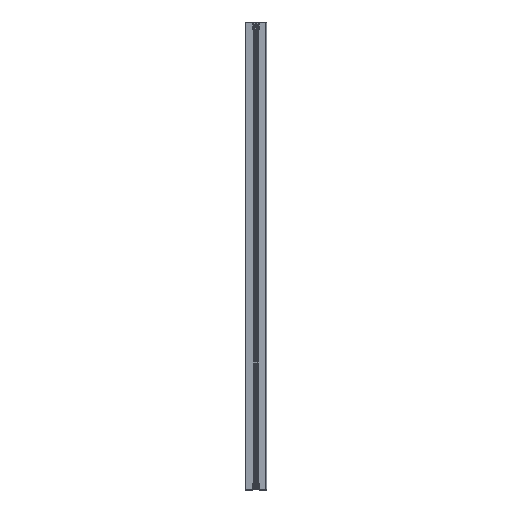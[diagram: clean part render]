
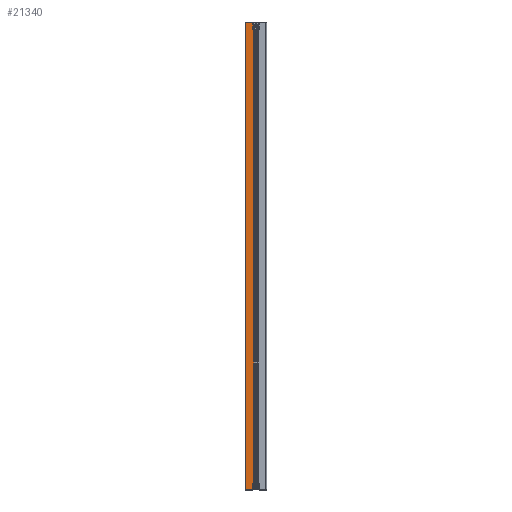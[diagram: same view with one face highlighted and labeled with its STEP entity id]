
A CAD part, left-side view. The second image highlights one B-rep face of the part: STEP entity #21340.
In plain terms, the highlighted planar face has unit normal (-1, 0, 0).
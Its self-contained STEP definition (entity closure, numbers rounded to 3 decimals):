
#690 = LINE ( 'NONE', #26309, #26823 ) ;
#1391 = DIRECTION ( 'NONE',  ( 1., 0., 0. ) ) ;
#1424 = EDGE_CURVE ( 'NONE', #10285, #3055, #13794, .T. ) ;
#2332 = ORIENTED_EDGE ( 'NONE', *, *, #30333, .T. ) ;
#2998 = DIRECTION ( 'NONE',  ( 0., 0., 1. ) ) ;
#3055 = VERTEX_POINT ( 'NONE', #15467 ) ;
#3110 = ORIENTED_EDGE ( 'NONE', *, *, #30169, .F. ) ;
#3921 = DIRECTION ( 'NONE',  ( 0., -1., 0. ) ) ;
#4016 = PLANE ( 'NONE',  #25367 ) ;
#4985 = DIRECTION ( 'NONE',  ( 0., -1., 0. ) ) ;
#5326 = DIRECTION ( 'NONE',  ( 0., 0., -1. ) ) ;
#5826 = EDGE_CURVE ( 'NONE', #8195, #10285, #690, .T. ) ;
#6534 = VERTEX_POINT ( 'NONE', #18604 ) ;
#7473 = ORIENTED_EDGE ( 'NONE', *, *, #11070, .T. ) ;
#7489 = CARTESIAN_POINT ( 'NONE',  ( -16., 13.85, -987.3 ) ) ;
#7751 = LINE ( 'NONE', #13003, #18768 ) ;
#7790 = CARTESIAN_POINT ( 'NONE',  ( -16., 13.85, -1017. ) ) ;
#8195 = VERTEX_POINT ( 'NONE', #8736 ) ;
#8505 = DIRECTION ( 'NONE',  ( 0., 1., 0. ) ) ;
#8518 = CARTESIAN_POINT ( 'NONE',  ( -16., 8.776, 1017. ) ) ;
#8736 = CARTESIAN_POINT ( 'NONE',  ( -16., 46.5, 1017. ) ) ;
#9309 = ORIENTED_EDGE ( 'NONE', *, *, #11045, .T. ) ;
#9635 = ORIENTED_EDGE ( 'NONE', *, *, #5826, .T. ) ;
#10116 = VECTOR ( 'NONE', #26553, 1000. ) ;
#10285 = VERTEX_POINT ( 'NONE', #18929 ) ;
#10708 = CARTESIAN_POINT ( 'NONE',  ( -16., 8.776, 987.3 ) ) ;
#11045 = EDGE_CURVE ( 'NONE', #29135, #28756, #12115, .T. ) ;
#11070 = EDGE_CURVE ( 'NONE', #3055, #29135, #25001, .T. ) ;
#12115 = LINE ( 'NONE', #7489, #21429 ) ;
#12221 = LINE ( 'NONE', #21769, #10116 ) ;
#13003 = CARTESIAN_POINT ( 'NONE',  ( -16., 13.85, 987.3 ) ) ;
#13440 = CARTESIAN_POINT ( 'NONE',  ( -16., 8.487, 1017. ) ) ;
#13569 = VECTOR ( 'NONE', #2998, 1000. ) ;
#13794 = LINE ( 'NONE', #18264, #29103 ) ;
#15306 = CARTESIAN_POINT ( 'NONE',  ( -16., 13.85, -987.3 ) ) ;
#15467 = CARTESIAN_POINT ( 'NONE',  ( -16., 13.85, -1016.9 ) ) ;
#17117 = EDGE_CURVE ( 'NONE', #8195, #18288, #21027, .T. ) ;
#17613 = DIRECTION ( 'NONE',  ( 0., -1., 0. ) ) ;
#17905 = ORIENTED_EDGE ( 'NONE', *, *, #17117, .F. ) ;
#17922 = DIRECTION ( 'NONE',  ( 0., 0., 1. ) ) ;
#18264 = CARTESIAN_POINT ( 'NONE',  ( -16., 8.487, -1016.9 ) ) ;
#18288 = VERTEX_POINT ( 'NONE', #25361 ) ;
#18604 = CARTESIAN_POINT ( 'NONE',  ( -16., 13.85, 987.3 ) ) ;
#18768 = VECTOR ( 'NONE', #17613, 1000. ) ;
#18929 = CARTESIAN_POINT ( 'NONE',  ( -16., 46.5, -1016.9 ) ) ;
#19266 = VECTOR ( 'NONE', #17922, 1000. ) ;
#20385 = LINE ( 'NONE', #8518, #19266 ) ;
#21015 = EDGE_LOOP ( 'NONE', ( #7473, #9309, #2332, #3110, #23493, #17905, #9635, #22980 ) ) ;
#21027 = LINE ( 'NONE', #28290, #30495 ) ;
#21242 = EDGE_CURVE ( 'NONE', #18288, #6534, #12221, .T. ) ;
#21340 = ADVANCED_FACE ( 'NONE', ( #26708 ), #4016, .F. ) ;
#21429 = VECTOR ( 'NONE', #30330, 1000. ) ;
#21769 = CARTESIAN_POINT ( 'NONE',  ( -16., 13.85, 1017. ) ) ;
#22980 = ORIENTED_EDGE ( 'NONE', *, *, #1424, .T. ) ;
#23493 = ORIENTED_EDGE ( 'NONE', *, *, #21242, .F. ) ;
#25001 = LINE ( 'NONE', #7790, #13569 ) ;
#25361 = CARTESIAN_POINT ( 'NONE',  ( -16., 13.85, 1017. ) ) ;
#25367 = AXIS2_PLACEMENT_3D ( 'NONE', #13440, #1391, #8505 ) ;
#26144 = CARTESIAN_POINT ( 'NONE',  ( -16., 8.776, -987.3 ) ) ;
#26309 = CARTESIAN_POINT ( 'NONE',  ( -16., 46.5, 1017. ) ) ;
#26553 = DIRECTION ( 'NONE',  ( 0., 0., -1. ) ) ;
#26708 = FACE_OUTER_BOUND ( 'NONE', #21015, .T. ) ;
#26823 = VECTOR ( 'NONE', #5326, 1000. ) ;
#27505 = VERTEX_POINT ( 'NONE', #10708 ) ;
#28290 = CARTESIAN_POINT ( 'NONE',  ( -16., 8.487, 1017. ) ) ;
#28756 = VERTEX_POINT ( 'NONE', #26144 ) ;
#29103 = VECTOR ( 'NONE', #3921, 1000. ) ;
#29135 = VERTEX_POINT ( 'NONE', #15306 ) ;
#30169 = EDGE_CURVE ( 'NONE', #6534, #27505, #7751, .T. ) ;
#30330 = DIRECTION ( 'NONE',  ( 0., -1., 0. ) ) ;
#30333 = EDGE_CURVE ( 'NONE', #28756, #27505, #20385, .T. ) ;
#30495 = VECTOR ( 'NONE', #4985, 1000. ) ;
